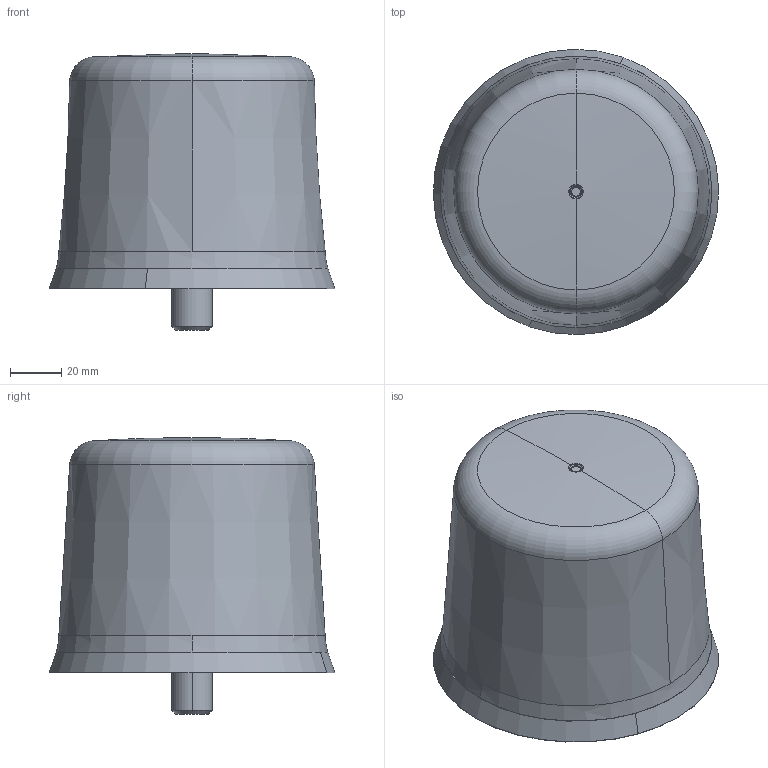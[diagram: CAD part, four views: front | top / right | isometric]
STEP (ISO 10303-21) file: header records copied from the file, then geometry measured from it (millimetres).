
FILE_DESCRIPTION (( 'STEP AP203' ), '1' );
FILE_NAME ('ZSB-GEH098-D87-L17.STEP', '2020-06-30T06:09:01', ( '' ), ( '' ), 'SwSTEP 2.0', 'SolidWorks 2015', '' );
FILE_SCHEMA (( 'CONFIG_CONTROL_DESIGN' ));
Length unit declared in the file: millimetre
Products named in the file (1): ZSB-GEH098-D87-L17
Bounding box: 111.55 x 111.55 x 108.13 mm (x, y, z)
Volume: 708179.1 mm3; surface area: 45724.8 mm2
Topology: 1 solids, 1 shells, 39 faces, 80 edges, 48 vertices
Faces by surface type: cone 14, plane 7, bspline 6, torus 6, cylinder 4, sphere 2
Entity records: 1257 total; most frequent: CARTESIAN_POINT 330, DIRECTION 206, ORIENTED_EDGE 160, AXIS2_PLACEMENT_3D 94, EDGE_CURVE 80, CIRCLE 60, VERTEX_POINT 48, EDGE_LOOP 44
